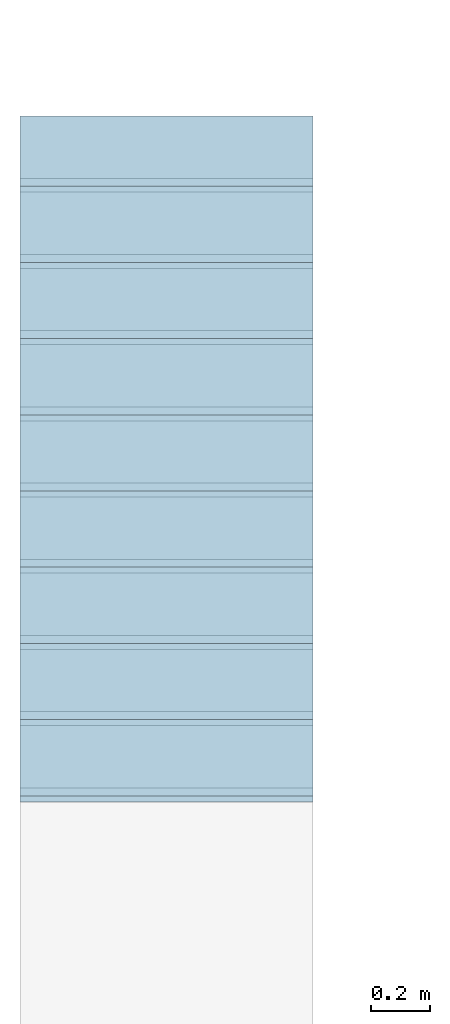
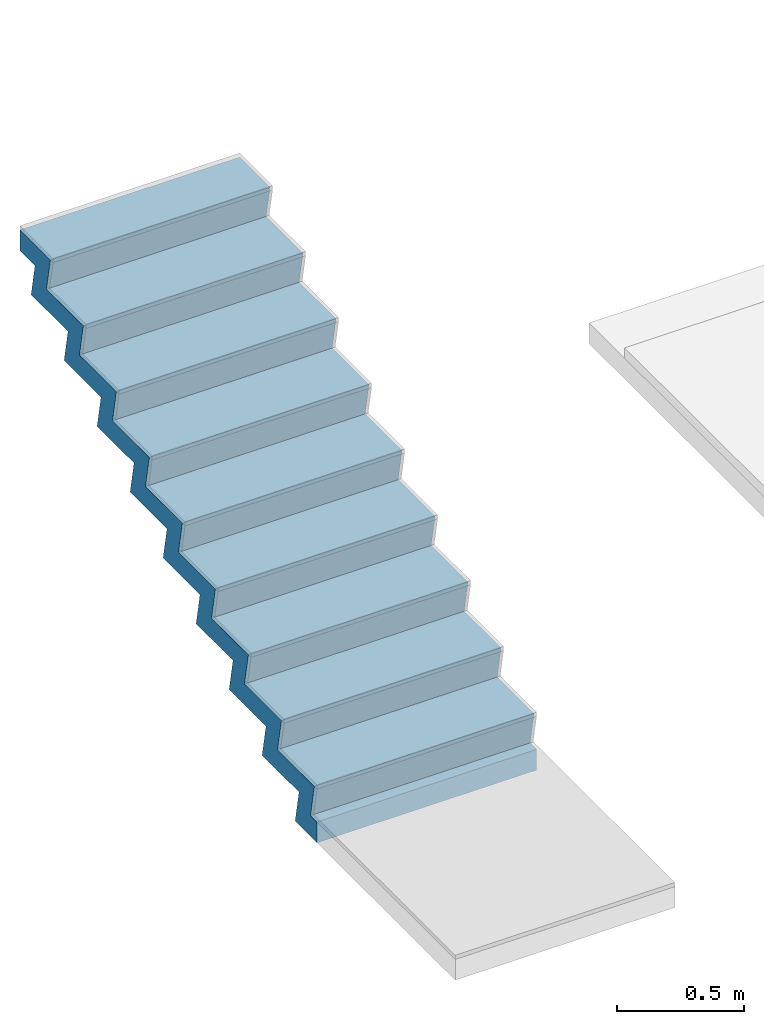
# One storey, part 2 of 4: 1 member, 1 element without a shape of its own.
"""IFC2X3 building model written with IfcOpenShell, lengths in millimetres."""

import ifcopenshell
import ifcopenshell.guid

model = None  # the IFC model being written
_history = None  # IfcOwnerHistory: only IFC2X3 demands one
_inside = {}  # id of a spatial element -> (the spatial element, [elements in it])
_under = {}  # id of a project, library or spatial element -> (it, [spatial elements below it])
_declared = {}  # id of a project -> (the project, [libraries it declares])
_typed = {}  # id of a type object -> (the type object, [elements of that type])
_made_of = {}  # id of a material, layer set ... -> (it, [elements and type objects made of it])


def new_model(schema):
    """Start an empty IFC model of exactly this schema.

    Asked for "IFC4X3", IfcOpenShell would pick the latest addendum, in which some entities
    have other attributes; the version numbers below select the first issue.
    IFC2X3 requires an IfcOwnerHistory on every rooted entity: one is made here for all.
    """
    global model, _history
    if schema == "IFC4X3":
        model = ifcopenshell.file(schema_version=(4, 3, 0, 0))
    else:
        model = ifcopenshell.file(schema=schema)
    _inside.clear()
    _under.clear()
    _declared.clear()
    _typed.clear()
    _made_of.clear()
    _history = None
    if model.schema == "IFC2X3":
        org = make("IfcOrganization", Name="unknown")
        user = make(
            "IfcPersonAndOrganization",
            ThePerson=make("IfcPerson", FamilyName="unknown"),
            TheOrganization=org,
        )
        app = make(
            "IfcApplication",
            ApplicationDeveloper=org,
            Version="unknown",
            ApplicationFullName="unknown",
            ApplicationIdentifier="unknown",
        )
        _history = make(
            "IfcOwnerHistory",
            OwningUser=user,
            OwningApplication=app,
            ChangeAction="ADDED",
            CreationDate=0,
        )
    return model


def make(cls, **values):
    """One entity of the class cls with the attributes given. An attribute that is None is left unset."""
    return model.create_entity(
        cls, **{name: value for name, value in values.items() if value is not None}
    )


def entity(cls, *values):
    """Any entity or typed value of the class cls, its attributes in the order of the schema. None: left unset."""
    e = model.create_entity(cls)
    for i, value in enumerate(values):
        if value is not None:
            e[i] = value
    return e


def rooted(cls, **values):
    """An entity with a GlobalId (a new one), such as an element, a storey or a relation."""
    return make(cls, GlobalId=ifcopenshell.guid.new(), OwnerHistory=_history, **values)


def si_unit(unit_type, name, prefix=None):
    """IfcSIUnit, for example si_unit("LENGTHUNIT", "METRE", prefix="MILLI")."""
    return make("IfcSIUnit", UnitType=unit_type, Prefix=prefix, Name=name)


def converted_unit(unit_type, name, factor, base, dimensions=None, offset=None):
    """IfcConversionBasedUnit, such as the inch: factor (a typed value) times the base unit."""
    return make(
        "IfcConversionBasedUnit"
        if offset is None
        else "IfcConversionBasedUnitWithOffset",
        ConversionOffset=offset,
        Dimensions=None
        if dimensions is None
        else entity("IfcDimensionalExponents", *dimensions),
        UnitType=unit_type,
        Name=name,
        ConversionFactor=make(
            "IfcMeasureWithUnit", ValueComponent=factor, UnitComponent=base
        ),
    )


def derived_unit(unit_type, elements):
    """IfcDerivedUnit: a product of units, each with its exponent."""
    return make(
        "IfcDerivedUnit",
        Elements=[
            make("IfcDerivedUnitElement", Unit=unit, Exponent=power)
            for unit, power in elements
        ],
        UnitType=unit_type,
    )


def money_unit(currency):
    """IfcMonetaryUnit."""
    return make("IfcMonetaryUnit", Currency=currency)


def assignment(units):
    """IfcUnitAssignment: the units of a project."""
    return None if units is None else make("IfcUnitAssignment", Units=units)


def point(xyz):
    """IfcCartesianPoint."""
    return None if xyz is None else make("IfcCartesianPoint", Coordinates=xyz)


def direction(xyz):
    """IfcDirection."""
    return None if xyz is None else make("IfcDirection", DirectionRatios=xyz)


def frame(location, z_axis=None, x_axis=None):
    """IfcAxis2Placement3D, a coordinate frame: its origin and axes. An axis left out is left unset."""
    return make(
        "IfcAxis2Placement3D",
        Location=point(location),
        Axis=direction(z_axis),
        RefDirection=direction(x_axis),
    )


def origin_with_axes():
    """The frame at (0, 0, 0) with the z axis (0, 0, 1) and the x axis (1, 0, 0) written out."""
    return frame((0.0, 0.0, 0.0), z_axis=(0.0, 0.0, 1.0), x_axis=(1.0, 0.0, 0.0))


def place(relative_to, where):
    """IfcLocalPlacement: puts the frame where relative to a parent placement (None: the world)."""
    return make(
        "IfcLocalPlacement", PlacementRelTo=relative_to, RelativePlacement=where
    )


def context(
    kind, dimensions, precision=None, world=None, true_north=None, identifier=None
):
    """IfcGeometricRepresentationContext, for example the 3D "Model" context."""
    return make(
        "IfcGeometricRepresentationContext",
        ContextIdentifier=identifier,
        ContextType=kind,
        CoordinateSpaceDimension=dimensions,
        Precision=precision,
        WorldCoordinateSystem=world,
        TrueNorth=true_north,
    )


def subcontext(parent, identifier, kind, view, scale=None):
    """IfcGeometricRepresentationSubContext, for example "Body" below "Model"."""
    return make(
        "IfcGeometricRepresentationSubContext",
        ContextIdentifier=identifier,
        ContextType=kind,
        ParentContext=parent,
        TargetScale=scale,
        TargetView=view,
    )


def project(units=None, contexts=None):
    """IfcProject with its units and contexts."""
    return rooted(
        "IfcProject",
        Name="project",
        RepresentationContexts=contexts,
        UnitsInContext=assignment(units),
    )


def spatial(cls, under=None, at=None, **own):
    """A site, building, storey or space (cls), placed at a placement, below another one or the project."""
    s = rooted(cls, ObjectPlacement=at, **own)
    if under is not None:
        _under.setdefault(under.id(), (under, []))[1].append(s)
    return s


def faces_of(points, faces, orient=None, outer=None):
    """IfcFace entities. A face is a list of loops; a loop is a list of indices into points, from 0.

    orient and outer hold one flag for each loop. By default every Orientation is true, the
    first loop of a face is its IfcFaceOuterBound and the others are IfcFaceBound.
    """
    made = []
    for i, loops in enumerate(faces):
        bounds = []
        for j, loop in enumerate(loops):
            is_outer = j == 0 if outer is None else outer[i][j]
            bounds.append(
                make(
                    "IfcFaceOuterBound" if is_outer else "IfcFaceBound",
                    Bound=make("IfcPolyLoop", Polygon=[points[k] for k in loop]),
                    Orientation=True if orient is None else orient[i][j],
                )
            )
        made.append(make("IfcFace", Bounds=bounds))
    return made


def faceted_brep(points, faces, orient=None, outer=None, voids=None):
    """IfcFacetedBrep: a solid bounded by flat faces; with voids (closed shells), ...WithVoids."""
    shared = [point(p) for p in points]
    hull = make("IfcClosedShell", CfsFaces=faces_of(shared, faces, orient, outer))
    if voids is None:
        return make("IfcFacetedBrep", Outer=hull)
    return make(
        "IfcFacetedBrepWithVoids",
        Outer=hull,
        Voids=[
            make(cls, CfsFaces=faces_of(shared, fs, o, b)) for cls, fs, o, b in voids
        ],
    )


def shape(context_of_items, identifier, shape_type, items):
    """IfcShapeRepresentation: the items that make up one representation, for example the "Body"."""
    return make(
        "IfcShapeRepresentation",
        ContextOfItems=context_of_items,
        RepresentationIdentifier=identifier,
        RepresentationType=shape_type,
        Items=items,
    )


def material(Name=None, Category=None):
    """IfcMaterial."""
    return make("IfcMaterial", Name=Name, Category=Category)


def made_of(thing, what):
    """Note that an element or type object is made of a material, layer set ...; save() writes the relation."""
    if what is not None:
        _made_of.setdefault(what.id(), (what, []))[1].append(thing)
    return thing


def type_object(cls, material=None, **own):
    """A type object (cls), such as IfcWallType, which elements share."""
    return made_of(rooted(cls, **own), material)


def element(
    cls,
    number,
    at=None,
    inside=None,
    cuts=None,
    type_object=None,
    material=None,
    context=None,
    identifier="Body",
    shape_type=None,
    held_by="IfcProductDefinitionShape",
    body=None,
    shapes=None,
    **own,
):
    """One element of the class cls, such as IfcWall. Its Tag is "e" and its number.

    at: its placement. inside: the storey or other place that contains it. cuts: it is an
    opening in that element (IfcRelVoidsElement). A single representation is given by context,
    identifier, shape_type and body (its items); several are given by shapes. held_by: the class
    of the entity that holds the representations. save() writes the other relations.
    """
    e = rooted(cls, Tag="e%d" % number, ObjectPlacement=at, **own)
    if body is not None:
        shapes = [shape(context, identifier, shape_type, body)]
    if shapes is not None:
        e.Representation = make(held_by, Representations=shapes)
    if inside is not None:
        _inside.setdefault(inside.id(), (inside, []))[1].append(e)
    if cuts is not None:
        rooted(
            "IfcRelVoidsElement", RelatingBuildingElement=cuts, RelatedOpeningElement=e
        )
    if type_object is not None:
        _typed.setdefault(type_object.id(), (type_object, []))[1].append(e)
    return made_of(e, material)


def aggregate(whole, parts):
    """IfcRelAggregates: a whole, such as a stair, and the parts it consists of."""
    return rooted("IfcRelAggregates", RelatingObject=whole, RelatedObjects=parts)


def save(model, path):
    """Write the relations noted so far, then the file.

    IfcRelAggregates (storeys below a building ...), IfcRelContainedInSpatialStructure (elements
    in a storey), IfcRelDefinesByType, IfcRelAssociatesMaterial and IfcRelDeclares: one each for
    every whole, place, type object, material and project.
    """
    for whole, parts in _under.values():
        aggregate(whole, parts)
    for where, things in _inside.values():
        rooted(
            "IfcRelContainedInSpatialStructure",
            RelatedElements=things,
            RelatingStructure=where,
        )
    for kind, things in _typed.values():
        rooted("IfcRelDefinesByType", RelatedObjects=things, RelatingType=kind)
    for what, things in _made_of.values():
        rooted("IfcRelAssociatesMaterial", RelatedObjects=things, RelatingMaterial=what)
    for by, libraries in _declared.values():
        rooted("IfcRelDeclares", RelatingContext=by, RelatedDefinitions=libraries)
    model.write(path)


model = new_model("IFC2X3")

# Units and contexts
model_context = context("Model", 3, precision=0.01, world=origin_with_axes(), true_north=direction((0.293984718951, 0.955810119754)))
body_context = subcontext(model_context, "Body", "Model", "MODEL_VIEW")
ifc_project = project(units=[si_unit("LENGTHUNIT", "METRE", prefix="MILLI"), si_unit("AREAUNIT", "SQUARE_METRE"), si_unit("VOLUMEUNIT", "CUBIC_METRE"), converted_unit("PLANEANGLEUNIT", "DEGREE", entity("IfcPlaneAngleMeasure", 0.0174532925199), si_unit("PLANEANGLEUNIT", "RADIAN"), dimensions=[0, 0, 0, 0, 0, 0, 0]), si_unit("SOLIDANGLEUNIT", "STERADIAN"), money_unit("USD"), converted_unit("TIMEUNIT", "Year", entity("IfcTimeMeasure", 31556926.0), si_unit("TIMEUNIT", "SECOND"), dimensions=[0, 0, 1, 0, 0, 0, 0]), si_unit("MASSUNIT", "GRAM", prefix="KILO"), si_unit("THERMODYNAMICTEMPERATUREUNIT", "DEGREE_CELSIUS"), si_unit("LUMINOUSINTENSITYUNIT", "LUMEN"), si_unit("ENERGYUNIT", "JOULE", prefix="MEGA"), derived_unit("THERMALCONDUCTANCEUNIT", [(si_unit("POWERUNIT", "WATT"), 1), (si_unit("LENGTHUNIT", "METRE"), -1), (si_unit("THERMODYNAMICTEMPERATUREUNIT", "KELVIN"), -1)]), derived_unit("SPECIFICHEATCAPACITYUNIT", [(si_unit("ENERGYUNIT", "JOULE"), 1), (si_unit("MASSUNIT", "GRAM", prefix="KILO"), -1), (si_unit("THERMODYNAMICTEMPERATUREUNIT", "KELVIN"), -1)]), derived_unit("MASSDENSITYUNIT", [(si_unit("MASSUNIT", "GRAM", prefix="KILO"), 1), (si_unit("VOLUMEUNIT", "CUBIC_METRE"), -1)])], contexts=[model_context])

# Site, building, storey
site_placement = place(None, origin_with_axes())
site = spatial("IfcSite", under=ifc_project, at=site_placement, Name="Local", CompositionType="ELEMENT")
building_placement = place(site_placement, origin_with_axes())
building = spatial("IfcBuilding", under=site, at=building_placement, Name="Construção", CompositionType="ELEMENT")
storey_placement = place(building_placement, frame((0.0, 0.0, 1300.0), z_axis=(0.0, 0.0, 1.0), x_axis=(1.0, 0.0, 0.0)))
storey = spatial("IfcBuildingStorey", under=building, at=storey_placement, Name="Pavimento Intermediário", CompositionType="ELEMENT", Elevation=1300.0)

# Stair, member
stair_placement = place(storey_placement, frame((13699.6450727, 3490.63219788, 210.0), z_axis=(0.0, 0.0, 1.0), x_axis=(1.0, 0.0, 0.0)))
stair = element("IfcStair", 1, at=stair_placement, inside=storey, Name="Escada", ShapeType="NOTDEFINED")
ifc_material = material(Name="Concreto Armado - Estrutural")
member_type = type_object("IfcMemberType", Name="IfcMember", PredefinedType="NOTDEFINED")
member_placement = place(stair_placement, origin_with_axes())
member = element("IfcMember", 2, at=member_placement, type_object=member_type, material=ifc_material, Name="Lance - 026", context=body_context, shape_type="Brep", body=[
    faceted_brep([(0.0, 3431.97491264, 1310.0), (0.0, 3431.97491264, 1410.0), (0.0, 3192.24057236, 1410.0), (0.0, 3223.1254437, 1251.11111111), (0.0, 2932.02002651, 1251.11111111), (0.0, 2962.90489786, 1092.22222222), (0.0, 2671.79948067, 1092.22222222), (0.0, 2702.68435201, 933.333333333), (0.0, 2411.57893482, 933.333333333), (0.0, 2442.46380616, 774.444444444), (0.0, 2151.35838897, 774.444444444), (0.0, 2182.24326031, 615.555555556), (0.0, 1891.13784312, 615.555555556), (0.0, 1922.02271446, 456.666666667), (0.0, 1630.91729727, 456.666666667), (0.0, 1661.80216861, 297.777777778), (0.0, 1370.69675142, 297.777777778), (0.0, 1401.58162276, 138.888888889), (0.0, 1110.47620557, 138.888888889), (-7.88163201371e-07, 1141.36107691, -20.0), (-4.59267057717e-06, 1090.0, -20.0), (-4.59267057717e-06, 1090.0, -120.0), (0.0, 1262.67077732, -120.0), (0.0, 1231.78590598, 38.8888888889), (0.0, 1522.89132317, 38.8888888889), (0.0, 1492.00645183, 197.777777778), (0.0, 1783.11186902, 197.777777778), (0.0, 1752.22699768, 356.666666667), (0.0, 2043.33241487, 356.666666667), (0.0, 2012.44754353, 515.555555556), (0.0, 2303.55296072, 515.555555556), (0.0, 2272.66808938, 674.444444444), (0.0, 2563.77350657, 674.444444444), (0.0, 2532.88863523, 833.333333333), (0.0, 2823.99405242, 833.333333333), (0.0, 2793.10918108, 992.222222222), (0.0, 3084.21459826, 992.222222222), (0.0, 3053.32972692, 1151.11111111), (0.0, 3344.43514411, 1151.11111111), (0.0, 3313.55027277, 1310.0), (-1000.0, 3431.97491264, 1410.0), (-1000.0, 3431.97491264, 1310.0), (-1000.0, 3192.24057236, 1410.0), (-1000.0, 3223.1254437, 1251.11111111), (-1000.0, 2932.02002651, 1251.11111111), (-1000.0, 2962.90489786, 1092.22222222), (-1000.0, 2671.79948067, 1092.22222222), (-1000.0, 2702.68435201, 933.333333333), (-1000.0, 2411.57893482, 933.333333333), (-1000.0, 2442.46380616, 774.444444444), (-1000.0, 2151.35838897, 774.444444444), (-1000.0, 2182.24326031, 615.555555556), (-1000.0, 1891.13784312, 615.555555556), (-1000.0, 1922.02271446, 456.666666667), (-1000.0, 1630.91729727, 456.666666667), (-1000.0, 1661.80216861, 297.777777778), (-1000.0, 1370.69675142, 297.777777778), (-1000.0, 1401.58162276, 138.888888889), (-1000.0, 1110.47620557, 138.888888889), (-1000.0, 1141.36107691, -20.0), (-1000.0, 1090.0, -20.0), (-1000.0, 1090.0, -120.0), (-1000.0, 1262.67077732, -120.0), (-1000.0, 1231.78590598, 38.8888888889), (-1000.0, 1522.89132317, 38.8888888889), (-1000.0, 1492.00645183, 197.777777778), (-1000.0, 1783.11186902, 197.777777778), (-1000.0, 1752.22699768, 356.666666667), (-1000.0, 2043.33241487, 356.666666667), (-1000.0, 2012.44754353, 515.555555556), (-1000.0, 2303.55296072, 515.555555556), (-1000.0, 2272.66808938, 674.444444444), (-1000.0, 2563.77350657, 674.444444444), (-1000.0, 2532.88863523, 833.333333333), (-1000.0, 2823.99405242, 833.333333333), (-1000.0, 2793.10918108, 992.222222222), (-1000.0, 3084.21459826, 992.222222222), (-1000.0, 3053.32972692, 1151.11111111), (-1000.0, 3344.43514411, 1151.11111111), (-1000.0, 3313.55027277, 1310.0)], [[[0, 1, 2, 3, 4, 5, 6, 7, 8, 9, 10, 11, 12, 13, 14, 15, 16, 17, 18, 19, 20, 21, 22, 23, 24, 25, 26, 27, 28, 29, 30, 31, 32, 33, 34, 35, 36, 37, 38, 39]], [[40, 1, 0, 41]], [[1, 40, 42, 2]], [[3, 2, 42, 43]], [[43, 44, 4, 3]], [[5, 4, 44, 45]], [[45, 46, 6, 5]], [[7, 6, 46, 47]], [[47, 48, 8, 7]], [[9, 8, 48, 49]], [[49, 50, 10, 9]], [[11, 10, 50, 51]], [[51, 52, 12, 11]], [[13, 12, 52, 53]], [[53, 54, 14, 13]], [[15, 14, 54, 55]], [[55, 56, 16, 15]], [[17, 16, 56, 57]], [[57, 58, 18, 17]], [[58, 59, 19, 18]], [[59, 60, 20, 19]], [[21, 20, 60, 61]], [[62, 22, 21, 61]], [[23, 22, 62, 63]], [[63, 64, 24, 23]], [[64, 65, 25, 24]], [[65, 66, 26, 25]], [[66, 67, 27, 26]], [[67, 68, 28, 27]], [[68, 69, 29, 28]], [[69, 70, 30, 29]], [[70, 71, 31, 30]], [[71, 72, 32, 31]], [[72, 73, 33, 32]], [[73, 74, 34, 33]], [[74, 75, 35, 34]], [[75, 76, 36, 35]], [[76, 77, 37, 36]], [[77, 78, 38, 37]], [[78, 79, 39, 38]], [[41, 0, 39, 79]], [[40, 41, 79, 78, 77, 76, 75, 74, 73, 72, 71, 70, 69, 68, 67, 66, 65, 64, 63, 62, 61, 60, 59, 58, 57, 56, 55, 54, 53, 52, 51, 50, 49, 48, 47, 46, 45, 44, 43, 42]]]),
])
aggregate(stair, [member])

save(model, "model.ifc")
